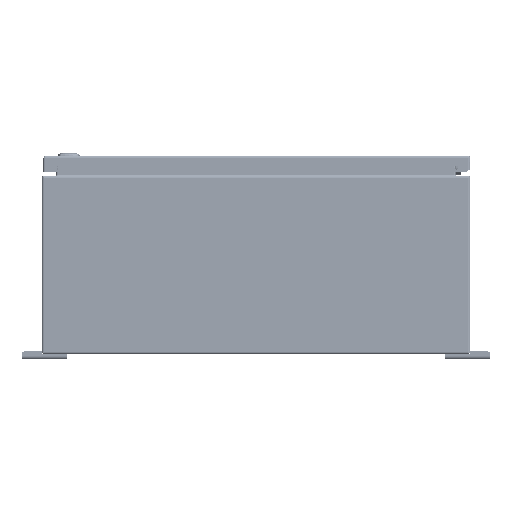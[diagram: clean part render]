
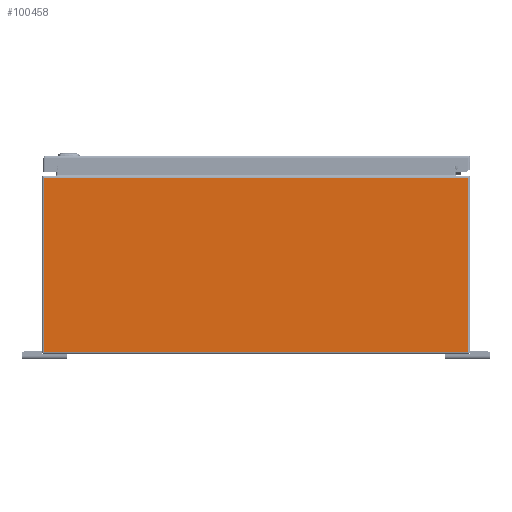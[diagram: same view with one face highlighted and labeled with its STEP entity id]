
A CAD part, left-side view. The second image highlights one B-rep face of the part: STEP entity #100458.
In plain terms, the highlighted planar face has unit normal (-1, 0, 0).
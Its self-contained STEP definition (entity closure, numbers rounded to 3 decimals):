
#6234=PLANE('',#107578);
#8723=LINE('',#141651,#16521);
#8724=LINE('',#141655,#16522);
#8725=LINE('',#141657,#16523);
#8726=LINE('',#141659,#16524);
#8727=LINE('',#141661,#16525);
#8728=LINE('',#141662,#16526);
#16521=VECTOR('',#116435,0.394);
#16522=VECTOR('',#116440,0.394);
#16523=VECTOR('',#116441,0.394);
#16524=VECTOR('',#116442,0.394);
#16525=VECTOR('',#116443,0.394);
#16526=VECTOR('',#116444,0.394);
#25914=FACE_OUTER_BOUND('',#31859,.T.);
#31859=EDGE_LOOP('',(#68020,#68021,#68022,#68023,#68024,#68025));
#42203=VERTEX_POINT('',#141633);
#42210=VERTEX_POINT('',#141650);
#42211=VERTEX_POINT('',#141654);
#42212=VERTEX_POINT('',#141656);
#42213=VERTEX_POINT('',#141658);
#42214=VERTEX_POINT('',#141660);
#52287=EDGE_CURVE('',#42203,#42210,#8723,.T.);
#52289=EDGE_CURVE('',#42211,#42203,#8724,.T.);
#52290=EDGE_CURVE('',#42211,#42212,#8725,.T.);
#52291=EDGE_CURVE('',#42213,#42212,#8726,.T.);
#52292=EDGE_CURVE('',#42214,#42213,#8727,.T.);
#52293=EDGE_CURVE('',#42214,#42210,#8728,.T.);
#68020=ORIENTED_EDGE('',*,*,#52289,.F.);
#68021=ORIENTED_EDGE('',*,*,#52290,.T.);
#68022=ORIENTED_EDGE('',*,*,#52291,.F.);
#68023=ORIENTED_EDGE('',*,*,#52292,.F.);
#68024=ORIENTED_EDGE('',*,*,#52293,.T.);
#68025=ORIENTED_EDGE('',*,*,#52287,.F.);
#100458=ADVANCED_FACE('',(#25914),#6234,.F.);
#107578=AXIS2_PLACEMENT_3D('',#141653,#116438,#116439);
#116435=DIRECTION('',(0.,0.,-1.));
#116438=DIRECTION('center_axis',(1.,0.,0.));
#116439=DIRECTION('ref_axis',(0.,0.,-1.));
#116440=DIRECTION('',(0.,-1.,0.));
#116441=DIRECTION('',(0.,1.,0.));
#116442=DIRECTION('',(0.,-1.,0.));
#116443=DIRECTION('',(0.,0.,1.));
#116444=DIRECTION('',(0.,-1.,0.));
#141633=CARTESIAN_POINT('',(-36.,-11.901,9.901));
#141650=CARTESIAN_POINT('',(-36.,-11.901,0.099));
#141651=CARTESIAN_POINT('',(-36.,-11.901,5.));
#141653=CARTESIAN_POINT('Origin',(-36.,0.,5.));
#141654=CARTESIAN_POINT('',(-36.,-11.126,9.901));
#141655=CARTESIAN_POINT('',(-36.,-5.975,9.901));
#141656=CARTESIAN_POINT('',(-36.,11.126,9.901));
#141657=CARTESIAN_POINT('',(-36.,5.955,9.901));
#141658=CARTESIAN_POINT('',(-36.,11.901,9.901));
#141659=CARTESIAN_POINT('',(-36.,-5.975,9.901));
#141660=CARTESIAN_POINT('',(-36.,11.901,0.099));
#141661=CARTESIAN_POINT('',(-36.,11.901,5.));
#141662=CARTESIAN_POINT('',(-36.,6.,0.099));
